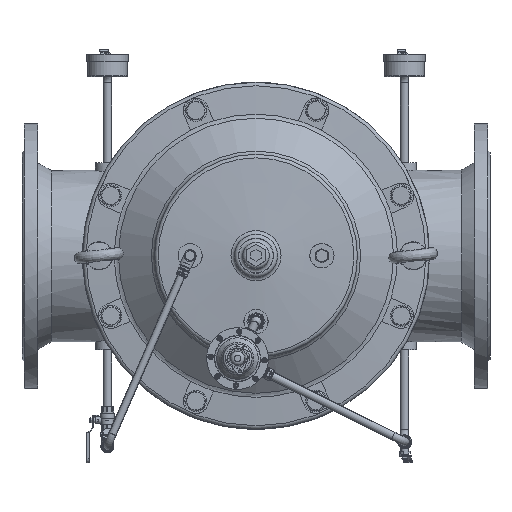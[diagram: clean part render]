
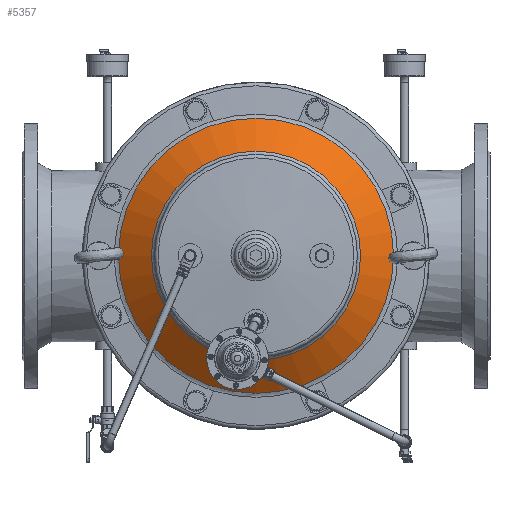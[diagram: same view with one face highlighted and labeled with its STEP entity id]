
A CAD part, top view. The second image highlights one B-rep face of the part: STEP entity #5357.
In plain terms, the highlighted conical face has half-angle 53.358 degrees and reference radius 155.206 mm.
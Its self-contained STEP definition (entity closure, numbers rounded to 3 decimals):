
#5357=ADVANCED_FACE('',(#18441,#18443),#18445,.T.);
#18441=FACE_OUTER_BOUND('',#18442,.T.);
#18442=EDGE_LOOP('',(#42016));
#18443=FACE_OUTER_BOUND('',#18444,.T.);
#18444=EDGE_LOOP('',(#42017));
#18445=CONICAL_SURFACE('',#18446,155.206,0.931);
#18446=AXIS2_PLACEMENT_3D('',#18447,#18448,#18449);
#18447=CARTESIAN_POINT('',(0.,-31.277,0.));
#18448=DIRECTION('',(0.,1.,0.));
#18449=DIRECTION('',(-1.,0.,0.));
#42016=ORIENTED_EDGE('',*,*,#48769,.F.);
#42017=ORIENTED_EDGE('',*,*,#48755,.F.);
#48755=EDGE_CURVE('',#53505,#53505,#53506,.T.);
#48769=EDGE_CURVE('',#53533,#53533,#53534,.F.);
#53505=VERTEX_POINT('',#77737);
#53506=CIRCLE('',#77738,134.032);
#53533=VERTEX_POINT('',#77807);
#53534=CIRCLE('',#77808,176.38);
#77737=CARTESIAN_POINT('',(134.032,-47.026,0.));
#77738=AXIS2_PLACEMENT_3D('',#77739,#77740,#77741);
#77739=CARTESIAN_POINT('',(0.,-47.026,0.));
#77740=DIRECTION('',(0.,-1.,0.));
#77741=DIRECTION('',(1.,0.,0.));
#77807=CARTESIAN_POINT('',(176.38,-15.527,0.));
#77808=AXIS2_PLACEMENT_3D('',#77809,#77810,#77811);
#77809=CARTESIAN_POINT('',(0.,-15.527,0.));
#77810=DIRECTION('',(0.,-1.,0.));
#77811=DIRECTION('',(1.,0.,0.));
